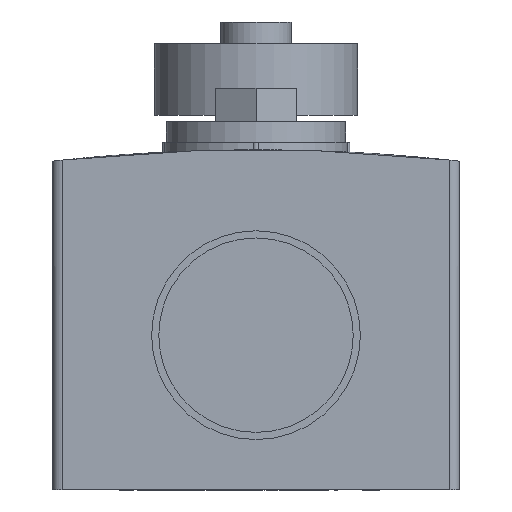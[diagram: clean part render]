
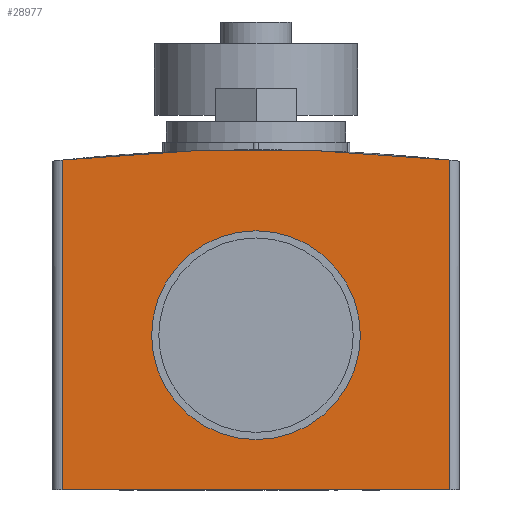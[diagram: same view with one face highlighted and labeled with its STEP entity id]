
A CAD part, front view. The second image highlights one B-rep face of the part: STEP entity #28977.
In plain terms, the highlighted planar face has unit normal (0, -1, 0).
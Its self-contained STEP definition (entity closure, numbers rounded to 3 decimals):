
#427 = CIRCLE ( 'NONE', #25536, 10.25 ) ;
#437 = CARTESIAN_POINT ( 'NONE',  ( 19., -45.5, -14.25 ) ) ;
#559 = VECTOR ( 'NONE', #15817, 1000. ) ;
#1327 = AXIS2_PLACEMENT_3D ( 'NONE', #1918, #18293, #4277 ) ;
#1348 = FACE_OUTER_BOUND ( 'NONE', #20678, .T. ) ;
#1918 = CARTESIAN_POINT ( 'NONE',  ( 0., -45.5, 0.95 ) ) ;
#2782 = CIRCLE ( 'NONE', #14934, 180. ) ;
#4197 = CARTESIAN_POINT ( 'NONE',  ( -19., -45.5, -14.25 ) ) ;
#4277 = DIRECTION ( 'NONE',  ( 0., 0., -1. ) ) ;
#6061 = DIRECTION ( 'NONE',  ( 0., 0., 1. ) ) ;
#6119 = ORIENTED_EDGE ( 'NONE', *, *, #14477, .T. ) ;
#6274 = CARTESIAN_POINT ( 'NONE',  ( 0., -45.5, 11.2 ) ) ;
#7424 = VECTOR ( 'NONE', #6061, 1000. ) ;
#8023 = VERTEX_POINT ( 'NONE', #24510 ) ;
#8159 = LINE ( 'NONE', #4197, #7424 ) ;
#8897 = VERTEX_POINT ( 'NONE', #10356 ) ;
#9319 = ORIENTED_EDGE ( 'NONE', *, *, #19398, .F. ) ;
#9565 = DIRECTION ( 'NONE',  ( 0., -1., 0. ) ) ;
#10356 = CARTESIAN_POINT ( 'NONE',  ( 19., -45.5, 18.144 ) ) ;
#11006 = DIRECTION ( 'NONE',  ( 0., -1., 0. ) ) ;
#11403 = DIRECTION ( 'NONE',  ( 0., -1., 0. ) ) ;
#11743 = CIRCLE ( 'NONE', #1327, 10.25 ) ;
#13266 = PLANE ( 'NONE',  #24681 ) ;
#13784 = FACE_BOUND ( 'NONE', #23316, .T. ) ;
#14036 = VERTEX_POINT ( 'NONE', #437 ) ;
#14477 = EDGE_CURVE ( 'NONE', #8023, #14036, #24702, .T. ) ;
#14934 = AXIS2_PLACEMENT_3D ( 'NONE', #25495, #11403, #27814 ) ;
#15817 = DIRECTION ( 'NONE',  ( 0., 0., 1. ) ) ;
#16103 = ORIENTED_EDGE ( 'NONE', *, *, #21320, .F. ) ;
#16229 = EDGE_CURVE ( 'NONE', #8897, #24754, #2782, .T. ) ;
#16361 = CARTESIAN_POINT ( 'NONE',  ( 19., -45.5, -14.25 ) ) ;
#18293 = DIRECTION ( 'NONE',  ( 0., -1., 0. ) ) ;
#18421 = VECTOR ( 'NONE', #18730, 1000. ) ;
#18509 = LINE ( 'NONE', #22832, #559 ) ;
#18730 = DIRECTION ( 'NONE',  ( 1., 0., 0. ) ) ;
#19398 = EDGE_CURVE ( 'NONE', #21391, #25619, #11743, .T. ) ;
#20373 = CARTESIAN_POINT ( 'NONE',  ( 19., -45.5, -14.25 ) ) ;
#20678 = EDGE_LOOP ( 'NONE', ( #25911, #16103, #6119, #26521 ) ) ;
#21320 = EDGE_CURVE ( 'NONE', #8023, #24754, #8159, .T. ) ;
#21391 = VERTEX_POINT ( 'NONE', #25957 ) ;
#21931 = EDGE_CURVE ( 'NONE', #25619, #21391, #427, .T. ) ;
#22314 = ORIENTED_EDGE ( 'NONE', *, *, #21931, .F. ) ;
#22832 = CARTESIAN_POINT ( 'NONE',  ( 19., -45.5, -14.25 ) ) ;
#23316 = EDGE_LOOP ( 'NONE', ( #9319, #22314 ) ) ;
#23640 = CARTESIAN_POINT ( 'NONE',  ( 0., -45.5, 0.95 ) ) ;
#24510 = CARTESIAN_POINT ( 'NONE',  ( -19., -45.5, -14.25 ) ) ;
#24681 = AXIS2_PLACEMENT_3D ( 'NONE', #20373, #11006, #27431 ) ;
#24702 = LINE ( 'NONE', #16361, #18421 ) ;
#24754 = VERTEX_POINT ( 'NONE', #30179 ) ;
#25495 = CARTESIAN_POINT ( 'NONE',  ( 0., -45.5, -160.85 ) ) ;
#25536 = AXIS2_PLACEMENT_3D ( 'NONE', #23640, #9565, #26017 ) ;
#25619 = VERTEX_POINT ( 'NONE', #6274 ) ;
#25911 = ORIENTED_EDGE ( 'NONE', *, *, #16229, .T. ) ;
#25957 = CARTESIAN_POINT ( 'NONE',  ( 0., -45.5, -9.3 ) ) ;
#26017 = DIRECTION ( 'NONE',  ( 0., 0., -1. ) ) ;
#26521 = ORIENTED_EDGE ( 'NONE', *, *, #27552, .T. ) ;
#27431 = DIRECTION ( 'NONE',  ( 1., 0., 0. ) ) ;
#27552 = EDGE_CURVE ( 'NONE', #14036, #8897, #18509, .T. ) ;
#27814 = DIRECTION ( 'NONE',  ( 1., 0., 0. ) ) ;
#28977 = ADVANCED_FACE ( 'NONE', ( #1348, #13784 ), #13266, .T. ) ;
#30179 = CARTESIAN_POINT ( 'NONE',  ( -19., -45.5, 18.144 ) ) ;
